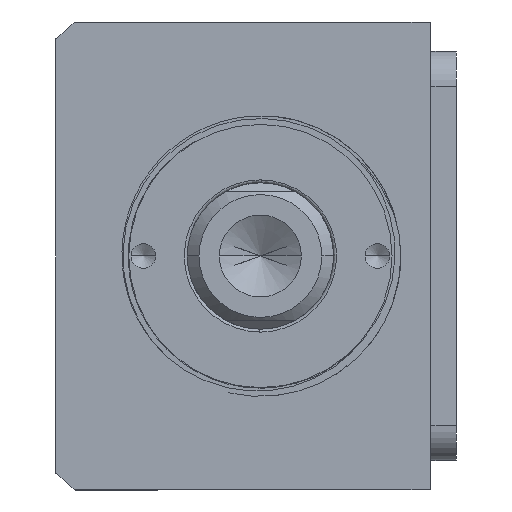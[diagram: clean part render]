
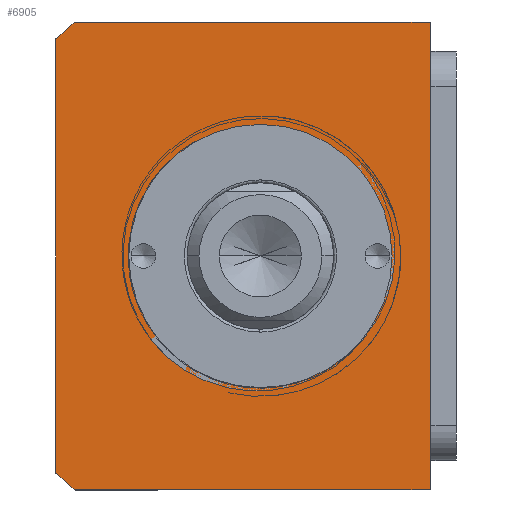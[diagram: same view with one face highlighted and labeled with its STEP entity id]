
A CAD part, front view. The second image highlights one B-rep face of the part: STEP entity #6905.
In plain terms, the highlighted planar face has unit normal (0, -1, 0) as drawn and (0, 0, 1) by its records, which use the part's own axes.
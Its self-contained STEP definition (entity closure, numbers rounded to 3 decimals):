
#12 = PLANE ( 'NONE',  #725 ) ;
#24 = CARTESIAN_POINT ( 'NONE',  ( -22.5, -40.507, 165. ) ) ;
#43 = ORIENTED_EDGE ( 'NONE', *, *, #4194, .F. ) ;
#45 = VERTEX_POINT ( 'NONE', #7536 ) ;
#99 = FACE_BOUND ( 'NONE', #5106, .T. ) ;
#224 = ORIENTED_EDGE ( 'NONE', *, *, #1886, .F. ) ;
#243 = VERTEX_POINT ( 'NONE', #2997 ) ;
#281 = VERTEX_POINT ( 'NONE', #5208 ) ;
#725 = AXIS2_PLACEMENT_3D ( 'NONE', #3223, #6479, #8114 ) ;
#736 = LINE ( 'NONE', #3807, #8864 ) ;
#848 = LINE ( 'NONE', #7177, #5165 ) ;
#1180 = CARTESIAN_POINT ( 'NONE',  ( 40., -11.507, 165. ) ) ;
#1262 = CARTESIAN_POINT ( 'NONE',  ( 0., -40.507, 165. ) ) ;
#1439 = EDGE_CURVE ( 'NONE', #243, #281, #736, .T. ) ;
#1465 = EDGE_LOOP ( 'NONE', ( #9631, #6385, #5992, #2024, #9819, #2146 ) ) ;
#1514 = CARTESIAN_POINT ( 'NONE',  ( 0., -40.507, 165. ) ) ;
#1530 = EDGE_CURVE ( 'NONE', #6480, #243, #2118, .T. ) ;
#1886 = EDGE_CURVE ( 'NONE', #3544, #45, #3007, .T. ) ;
#1927 = DIRECTION ( 'NONE',  ( 1., 0., 0. ) ) ;
#2024 = ORIENTED_EDGE ( 'NONE', *, *, #4764, .T. ) ;
#2060 = DIRECTION ( 'NONE',  ( 1., 0., 0. ) ) ;
#2118 = LINE ( 'NONE', #8785, #6435 ) ;
#2146 = ORIENTED_EDGE ( 'NONE', *, *, #1530, .T. ) ;
#2266 = DIRECTION ( 'NONE',  ( -1., 0., 0. ) ) ;
#2325 = DIRECTION ( 'NONE',  ( 1., 0., 0. ) ) ;
#2344 = LINE ( 'NONE', #1180, #4000 ) ;
#2988 = CIRCLE ( 'NONE', #5785, 22.5 ) ;
#2997 = CARTESIAN_POINT ( 'NONE',  ( -40., -11.507, 165. ) ) ;
#3007 = CIRCLE ( 'NONE', #3891, 22.5 ) ;
#3223 = CARTESIAN_POINT ( 'NONE',  ( 0., 0., 165. ) ) ;
#3265 = CARTESIAN_POINT ( 'NONE',  ( 40., -11.507, 165. ) ) ;
#3544 = VERTEX_POINT ( 'NONE', #24 ) ;
#3807 = CARTESIAN_POINT ( 'NONE',  ( -40., -11.507, 165. ) ) ;
#3862 = VERTEX_POINT ( 'NONE', #5594 ) ;
#3891 = AXIS2_PLACEMENT_3D ( 'NONE', #5976, #9786, #1927 ) ;
#4000 = VECTOR ( 'NONE', #10188, 1000. ) ;
#4188 = VERTEX_POINT ( 'NONE', #8686 ) ;
#4194 = EDGE_CURVE ( 'NONE', #45, #3544, #2988, .T. ) ;
#4486 = DIRECTION ( 'NONE',  ( 0., 0., 1. ) ) ;
#4764 = EDGE_CURVE ( 'NONE', #4188, #8179, #9672, .T. ) ;
#5106 = EDGE_LOOP ( 'NONE', ( #43, #224 ) ) ;
#5165 = VECTOR ( 'NONE', #6268, 1000. ) ;
#5208 = CARTESIAN_POINT ( 'NONE',  ( -40., -72.145, 165. ) ) ;
#5594 = CARTESIAN_POINT ( 'NONE',  ( -37.094, -75.507, 165. ) ) ;
#5785 = AXIS2_PLACEMENT_3D ( 'NONE', #9374, #4486, #10227 ) ;
#5976 = CARTESIAN_POINT ( 'NONE',  ( 0., -40.507, 165. ) ) ;
#5992 = ORIENTED_EDGE ( 'NONE', *, *, #8933, .T. ) ;
#6128 = AXIS2_PLACEMENT_3D ( 'NONE', #1262, #6924, #2060 ) ;
#6268 = DIRECTION ( 'NONE',  ( 1., 0., 0. ) ) ;
#6385 = ORIENTED_EDGE ( 'NONE', *, *, #7450, .T. ) ;
#6417 = CIRCLE ( 'NONE', #6694, 51. ) ;
#6435 = VECTOR ( 'NONE', #2266, 1000. ) ;
#6479 = DIRECTION ( 'NONE',  ( 0., 0., 1. ) ) ;
#6480 = VERTEX_POINT ( 'NONE', #3265 ) ;
#6694 = AXIS2_PLACEMENT_3D ( 'NONE', #1514, #7191, #2325 ) ;
#6905 = ADVANCED_FACE ( 'NONE', ( #99, #8726 ), #12, .T. ) ;
#6924 = DIRECTION ( 'NONE',  ( 0., 0., 1. ) ) ;
#7177 = CARTESIAN_POINT ( 'NONE',  ( -40., -75.507, 165. ) ) ;
#7191 = DIRECTION ( 'NONE',  ( 0., 0., 1. ) ) ;
#7450 = EDGE_CURVE ( 'NONE', #281, #3862, #6417, .T. ) ;
#7536 = CARTESIAN_POINT ( 'NONE',  ( 22.5, -40.507, 165. ) ) ;
#8098 = CARTESIAN_POINT ( 'NONE',  ( 40., -72.145, 165. ) ) ;
#8114 = DIRECTION ( 'NONE',  ( 1., 0., 0. ) ) ;
#8179 = VERTEX_POINT ( 'NONE', #8098 ) ;
#8614 = EDGE_CURVE ( 'NONE', #8179, #6480, #2344, .T. ) ;
#8646 = DIRECTION ( 'NONE',  ( 0., -1., 0. ) ) ;
#8686 = CARTESIAN_POINT ( 'NONE',  ( 37.094, -75.507, 165. ) ) ;
#8726 = FACE_OUTER_BOUND ( 'NONE', #1465, .T. ) ;
#8785 = CARTESIAN_POINT ( 'NONE',  ( -40., -11.507, 165. ) ) ;
#8864 = VECTOR ( 'NONE', #8646, 1000. ) ;
#8933 = EDGE_CURVE ( 'NONE', #3862, #4188, #848, .T. ) ;
#9374 = CARTESIAN_POINT ( 'NONE',  ( 0., -40.507, 165. ) ) ;
#9631 = ORIENTED_EDGE ( 'NONE', *, *, #1439, .T. ) ;
#9672 = CIRCLE ( 'NONE', #6128, 51. ) ;
#9786 = DIRECTION ( 'NONE',  ( 0., 0., 1. ) ) ;
#9819 = ORIENTED_EDGE ( 'NONE', *, *, #8614, .T. ) ;
#10188 = DIRECTION ( 'NONE',  ( 0., 1., 0. ) ) ;
#10227 = DIRECTION ( 'NONE',  ( 1., 0., 0. ) ) ;
